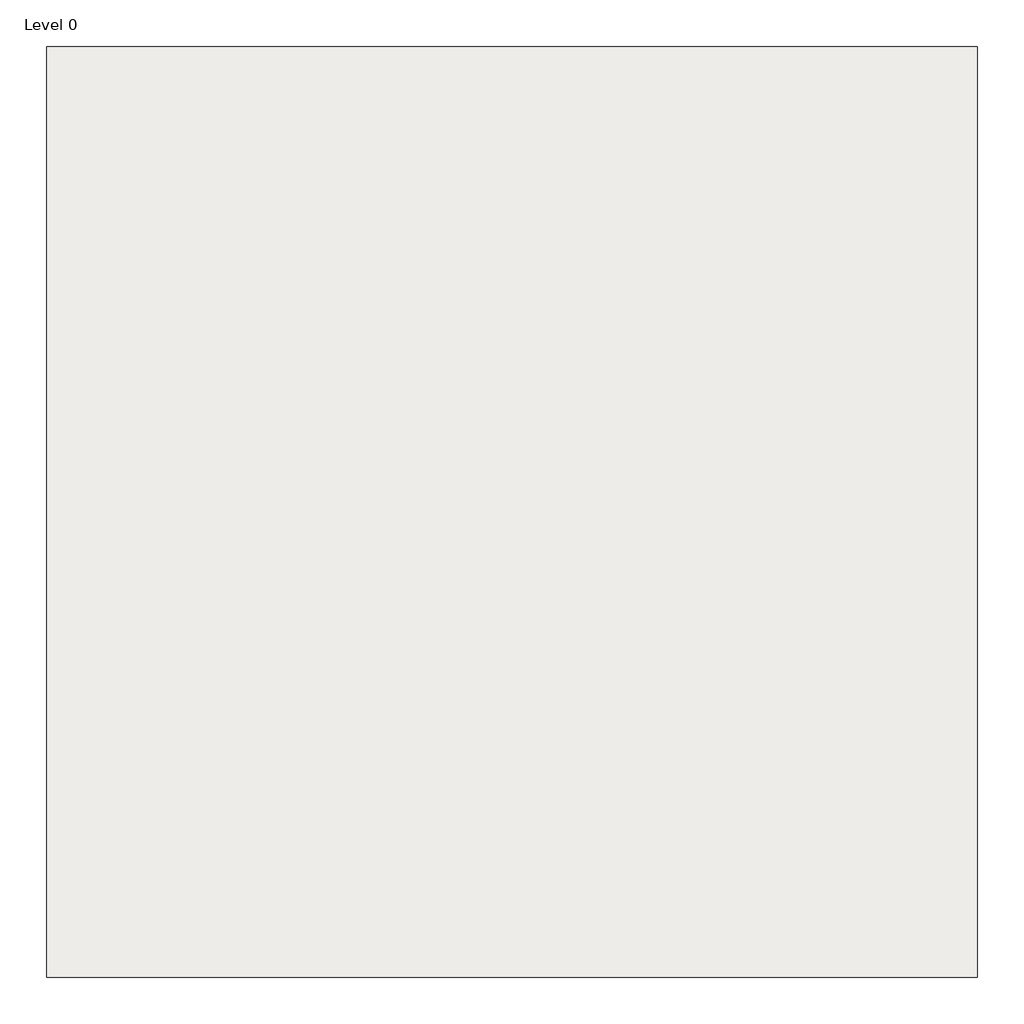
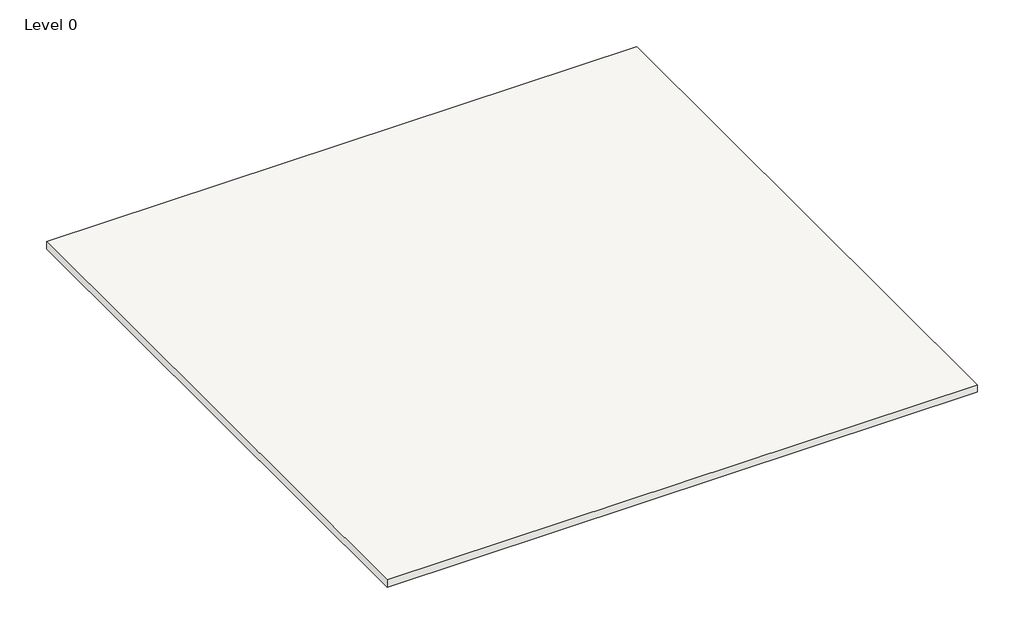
# One storey: 1 slab.
"""IFC4 building model written with IfcOpenShell, lengths in millimetres."""

from ifc_helpers import new_model, si_unit, origin, origin_with_axes, place, context, project, spatial, polyline, outline, extrude, element, save

model = new_model("IFC4")

# Units and contexts
model_context = context("Model", 3, world=origin())
ifc_project = project(units=[si_unit("LENGTHUNIT", "METRE", prefix="MILLI")], contexts=[model_context])

# Site, building, storey
site = spatial("IfcSite", under=ifc_project)
building = spatial("IfcBuilding", under=site)
storey = spatial("IfcBuildingStorey", under=building, Name="Level 0", Elevation=0.0)

# Slab
placement = place(None, origin())
element("IfcSlab", 1, ObjectType="NBS_IKOPLC_SingleLayerSheetWarmRoofCoveringSystems_IKOArmourplanFullyAdheredPSGPVCSinglePlyWarmRoofBondedSystem_20-25Year", at=placement, inside=storey, context=model_context, shape_type="SweptSolid", body=[
    extrude(outline(polyline([(0.0, -2500.0), (0.0, 0.0), (2500.0, 0.0), (2500.0, -2500.0), (0.0, -2500.0)])), origin_with_axes(), (0.0, 0.0, 1.0), 32.8),
])

save(model, "model.ifc")
